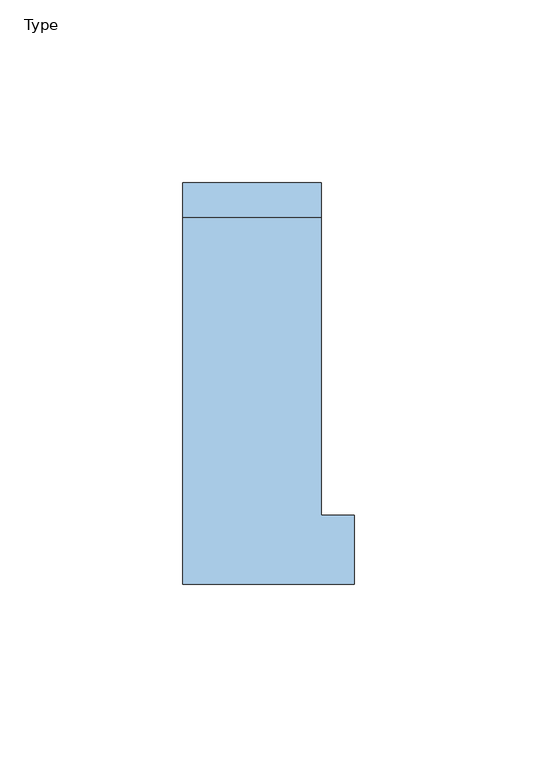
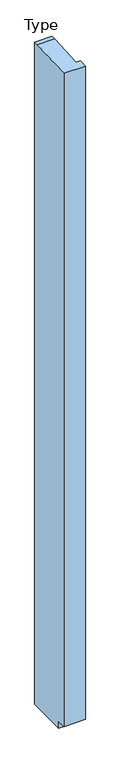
"""IFC4 building model written with IfcOpenShell, lengths in millimetres: window geometry, NLRS_30_MC_spouwlat_zijstijll_47x110 : Type."""

from ifc_helpers import new_model, si_unit, origin, place, context, project, spatial, faceted_brep, source, transform, mapped, element, save


def type_1c15dc0f(model_context):
    return source(origin(), model_context, "Body", "Brep", [
        faceted_brep([(-38.0, 110.0, 0.0), (0.0, 110.0, 0.0), (0.0, 19.0, 0.0), (-38.0, 19.0, 0.0), (-38.0, 110.0, 1527.4), (0.0, 110.0, 1527.4), (0.0, 100.4594317, 1527.4), (0.0, 19.0, 1523.1308921), (0.0, 19.0, 15.0), (9.0, 19.0, 15.0), (9.0, 19.0, 1523.1308921), (9.0, 0.0, 15.0), (9.0, 0.0, 1522.1351443), (-38.0, 0.0, 15.0), (-38.0, 0.0, 1522.1351443), (-38.0, 19.0, 15.0), (-38.0, 100.4594317, 1527.4)], [[[0, 1, 2, 3]], [[1, 0, 4, 5]], [[2, 1, 5, 6, 7, 8]], [[9, 8, 7, 10]], [[11, 9, 10, 12]], [[13, 11, 12, 14]], [[4, 0, 3, 15, 13, 14, 16]], [[5, 4, 16, 6]], [[8, 15, 3, 2]], [[15, 8, 9, 11, 13]], [[6, 16, 14, 12, 10, 7]]]),
    ])


if __name__ == "__main__":
    model = new_model("IFC4")
    model_context = context("Model", 3, world=origin())
    ifc_project = project(units=[si_unit("LENGTHUNIT", "METRE", prefix="MILLI")], contexts=[model_context])
    site = spatial("IfcSite", under=ifc_project)
    building = spatial("IfcBuilding", under=site)
    placement = place(None, origin())
    ifc_type_shape = type_1c15dc0f(model_context)
    element("IfcWindow", 1, ObjectType="NLRS_30_MC_spouwlat_zijstijll_47x110 : Type", at=placement, inside=building, context=model_context, shape_type="MappedRepresentation", body=[
        mapped(ifc_type_shape, transform((0.0, 0.0, 0.0), x_axis=(1.0, 0.0, 0.0), y_axis=(0.0, 1.0, 0.0), z_axis=(0.0, 0.0, 1.0))),
    ])
    save(model, "model.ifc")
